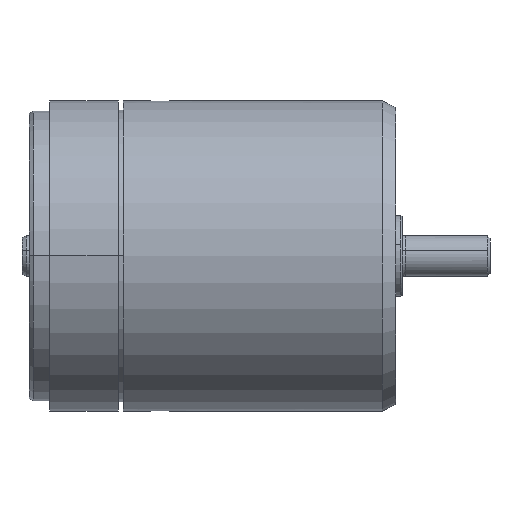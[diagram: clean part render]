
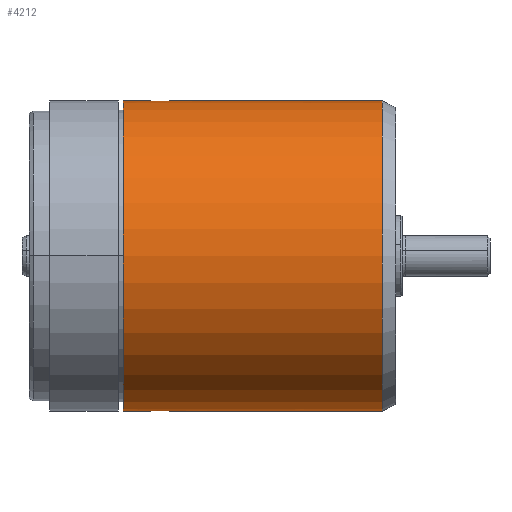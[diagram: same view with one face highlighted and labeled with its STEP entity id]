
A CAD part, top view. The second image highlights one B-rep face of the part: STEP entity #4212.
In plain terms, the highlighted cylindrical face has radius 11.5 mm (diameter 23 mm), a partial arc.
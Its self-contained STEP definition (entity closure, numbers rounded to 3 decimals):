
#56 = CARTESIAN_POINT ( 'NONE',  ( 9.868, -11.5, 0. ) ) ;
#293 = FACE_OUTER_BOUND ( 'NONE', #5469, .T. ) ;
#483 = B_SPLINE_CURVE_WITH_KNOTS ( 'NONE', 3,
 ( #1583, #3162, #7203, #1554, #4677, #688, #6353, #8705, #7129, #7959, #7169, #4786, #5536, #8832, #3965, #1620 ),
 .UNSPECIFIED., .F., .F.,
 ( 4, 2, 2, 2, 2, 2, 2, 4 ),
 ( 0., 0., 0.001, 0.001, 0.002, 0.002, 0.002, 0.003 ),
 .UNSPECIFIED. ) ;
#493 = CARTESIAN_POINT ( 'NONE',  ( -10.25, -11.5, 0. ) ) ;
#582 = CARTESIAN_POINT ( 'NONE',  ( 9.868, -11.5, 0. ) ) ;
#670 = LINE ( 'NONE', #582, #4673 ) ;
#688 = CARTESIAN_POINT ( 'NONE',  ( -9.868, -11.479, 0.713 ) ) ;
#745 = VECTOR ( 'NONE', #3552, 1000. ) ;
#771 = EDGE_CURVE ( 'NONE', #2236, #7448, #670, .T. ) ;
#832 = CARTESIAN_POINT ( 'NONE',  ( -9.941, 11.482, 0.64 ) ) ;
#1014 = AXIS2_PLACEMENT_3D ( 'NONE', #1304, #6207, #6941 ) ;
#1040 = CIRCLE ( 'NONE', #1014, 11.5 ) ;
#1267 = AXIS2_PLACEMENT_3D ( 'NONE', #4808, #10407, #1640 ) ;
#1304 = CARTESIAN_POINT ( 'NONE',  ( -12.2, 0., 0. ) ) ;
#1388 = EDGE_CURVE ( 'NONE', #8955, #8644, #4789, .T. ) ;
#1465 = CARTESIAN_POINT ( 'NONE',  ( -9.853, 11.479, 0.699 ) ) ;
#1554 = CARTESIAN_POINT ( 'NONE',  ( -10.149, -11.493, 0.403 ) ) ;
#1583 = CARTESIAN_POINT ( 'NONE',  ( -10.25, -11.5, 0. ) ) ;
#1620 = CARTESIAN_POINT ( 'NONE',  ( -8.65, -11.5, 0. ) ) ;
#1640 = DIRECTION ( 'NONE',  ( 0., 1., 0. ) ) ;
#1932 = CARTESIAN_POINT ( 'NONE',  ( 9.868, 11.5, 0. ) ) ;
#2027 = EDGE_CURVE ( 'NONE', #2712, #10400, #7814, .T. ) ;
#2116 = DIRECTION ( 'NONE',  ( 1., 0., 0. ) ) ;
#2183 = CYLINDRICAL_SURFACE ( 'NONE', #1267, 11.5 ) ;
#2236 = VERTEX_POINT ( 'NONE', #6364 ) ;
#2312 = ORIENTED_EDGE ( 'NONE', *, *, #2027, .F. ) ;
#2442 = CARTESIAN_POINT ( 'NONE',  ( -9.659, 11.474, 0.779 ) ) ;
#2712 = VERTEX_POINT ( 'NONE', #6990 ) ;
#2854 = AXIS2_PLACEMENT_3D ( 'NONE', #7220, #3992, #8013 ) ;
#2855 = CARTESIAN_POINT ( 'NONE',  ( -9.24, 11.474, 0.779 ) ) ;
#3147 = LINE ( 'NONE', #56, #7940 ) ;
#3162 = CARTESIAN_POINT ( 'NONE',  ( -10.25, -11.5, 0.106 ) ) ;
#3176 = VECTOR ( 'NONE', #2116, 1000. ) ;
#3180 = CARTESIAN_POINT ( 'NONE',  ( -8.737, 11.493, 0.418 ) ) ;
#3191 = CARTESIAN_POINT ( 'NONE',  ( -10.25, 11.5, 0.211 ) ) ;
#3552 = DIRECTION ( 'NONE',  ( 1., 0., 0. ) ) ;
#3710 = EDGE_CURVE ( 'NONE', #7448, #5715, #483, .T. ) ;
#3965 = CARTESIAN_POINT ( 'NONE',  ( -8.65, -11.5, 0.104 ) ) ;
#3985 = CARTESIAN_POINT ( 'NONE',  ( 7., 11.5, 0. ) ) ;
#3992 = DIRECTION ( 'NONE',  ( 1., 0., 0. ) ) ;
#4212 = ADVANCED_FACE ( 'NONE', ( #293 ), #2183, .T. ) ;
#4292 = EDGE_CURVE ( 'NONE', #2712, #8644, #9573, .T. ) ;
#4673 = VECTOR ( 'NONE', #5249, 1000. ) ;
#4677 = CARTESIAN_POINT ( 'NONE',  ( -10.089, -11.49, 0.492 ) ) ;
#4754 = EDGE_CURVE ( 'NONE', #2236, #8955, #1040, .T. ) ;
#4776 = CARTESIAN_POINT ( 'NONE',  ( -8.958, 11.482, 0.639 ) ) ;
#4786 = CARTESIAN_POINT ( 'NONE',  ( -8.81, -11.49, 0.491 ) ) ;
#4789 = LINE ( 'NONE', #7793, #3176 ) ;
#4808 = CARTESIAN_POINT ( 'NONE',  ( 9.868, 0., 0. ) ) ;
#4946 = CARTESIAN_POINT ( 'NONE',  ( -8.65, -11.5, 0. ) ) ;
#5043 = CARTESIAN_POINT ( 'NONE',  ( -10.163, 11.493, 0.419 ) ) ;
#5126 = ORIENTED_EDGE ( 'NONE', *, *, #1388, .F. ) ;
#5207 = ORIENTED_EDGE ( 'NONE', *, *, #4292, .T. ) ;
#5249 = DIRECTION ( 'NONE',  ( 1., 0., 0. ) ) ;
#5393 = CARTESIAN_POINT ( 'NONE',  ( -9.555, 11.472, 0.8 ) ) ;
#5469 = EDGE_LOOP ( 'NONE', ( #6359, #6441, #9536, #9086, #7915, #2312, #5207, #5126 ) ) ;
#5536 = CARTESIAN_POINT ( 'NONE',  ( -8.751, -11.493, 0.403 ) ) ;
#5715 = VERTEX_POINT ( 'NONE', #4946 ) ;
#5820 = CARTESIAN_POINT ( 'NONE',  ( -10.25, 11.5, 0. ) ) ;
#6140 = VERTEX_POINT ( 'NONE', #9641 ) ;
#6207 = DIRECTION ( 'NONE',  ( -1., 0., 0. ) ) ;
#6353 = CARTESIAN_POINT ( 'NONE',  ( -9.659, -11.472, 0.8 ) ) ;
#6359 = ORIENTED_EDGE ( 'NONE', *, *, #4754, .F. ) ;
#6364 = CARTESIAN_POINT ( 'NONE',  ( -12.2, -11.5, 0. ) ) ;
#6401 = CARTESIAN_POINT ( 'NONE',  ( -9.344, 11.472, 0.8 ) ) ;
#6441 = ORIENTED_EDGE ( 'NONE', *, *, #771, .T. ) ;
#6607 = DIRECTION ( 'NONE',  ( 1., 0., 0. ) ) ;
#6712 = CARTESIAN_POINT ( 'NONE',  ( -10.25, 11.5, 0. ) ) ;
#6941 = DIRECTION ( 'NONE',  ( 0., -1., 0. ) ) ;
#6990 = CARTESIAN_POINT ( 'NONE',  ( -8.65, 11.5, 0. ) ) ;
#7129 = CARTESIAN_POINT ( 'NONE',  ( -9.241, -11.474, 0.779 ) ) ;
#7169 = CARTESIAN_POINT ( 'NONE',  ( -8.959, -11.482, 0.64 ) ) ;
#7203 = CARTESIAN_POINT ( 'NONE',  ( -10.229, -11.498, 0.21 ) ) ;
#7220 = CARTESIAN_POINT ( 'NONE',  ( 7., 0., 0. ) ) ;
#7448 = VERTEX_POINT ( 'NONE', #493 ) ;
#7591 = CARTESIAN_POINT ( 'NONE',  ( -12.2, 11.5, 0. ) ) ;
#7727 = EDGE_CURVE ( 'NONE', #5715, #6140, #3147, .T. ) ;
#7793 = CARTESIAN_POINT ( 'NONE',  ( 9.868, 11.5, 0. ) ) ;
#7814 = LINE ( 'NONE', #1932, #745 ) ;
#7915 = ORIENTED_EDGE ( 'NONE', *, *, #8066, .F. ) ;
#7940 = VECTOR ( 'NONE', #6607, 1000. ) ;
#7959 = CARTESIAN_POINT ( 'NONE',  ( -9.047, -11.479, 0.699 ) ) ;
#8006 = CARTESIAN_POINT ( 'NONE',  ( -8.65, 11.5, 0. ) ) ;
#8013 = DIRECTION ( 'NONE',  ( 0., 1., 0. ) ) ;
#8047 = CIRCLE ( 'NONE', #2854, 11.5 ) ;
#8066 = EDGE_CURVE ( 'NONE', #10400, #6140, #8047, .T. ) ;
#8644 = VERTEX_POINT ( 'NONE', #6712 ) ;
#8705 = CARTESIAN_POINT ( 'NONE',  ( -9.346, -11.472, 0.8 ) ) ;
#8832 = CARTESIAN_POINT ( 'NONE',  ( -8.671, -11.499, 0.209 ) ) ;
#8955 = VERTEX_POINT ( 'NONE', #7591 ) ;
#9086 = ORIENTED_EDGE ( 'NONE', *, *, #7727, .T. ) ;
#9536 = ORIENTED_EDGE ( 'NONE', *, *, #3710, .T. ) ;
#9573 = B_SPLINE_CURVE_WITH_KNOTS ( 'NONE', 3,
 ( #8006, #9624, #3180, #4776, #9873, #2855, #6401, #5393, #2442, #1465, #832, #5043, #3191, #5820 ),
 .UNSPECIFIED., .F., .F.,
 ( 4, 2, 2, 2, 2, 2, 4 ),
 ( 0.003, 0.003, 0.003, 0.004, 0.004, 0.004, 0.005 ),
 .UNSPECIFIED. ) ;
#9624 = CARTESIAN_POINT ( 'NONE',  ( -8.65, 11.5, 0.209 ) ) ;
#9641 = CARTESIAN_POINT ( 'NONE',  ( 7., -11.5, 0. ) ) ;
#9873 = CARTESIAN_POINT ( 'NONE',  ( -9.046, 11.479, 0.699 ) ) ;
#10400 = VERTEX_POINT ( 'NONE', #3985 ) ;
#10407 = DIRECTION ( 'NONE',  ( 1., 0., 0. ) ) ;
